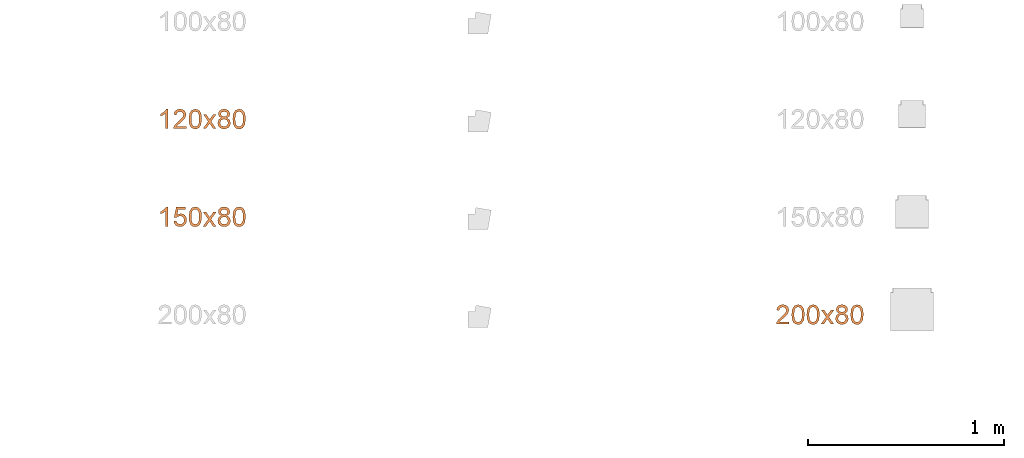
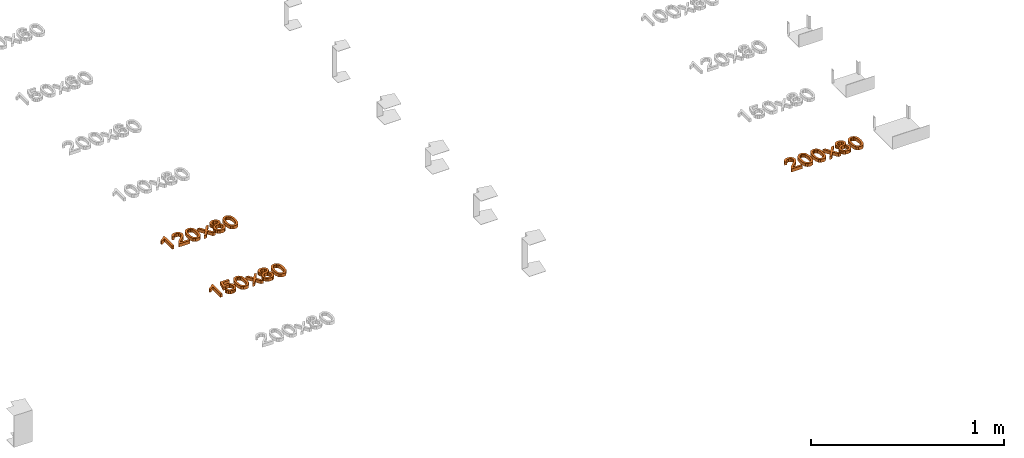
# One storey, part 51 of 71: 3 proxies.
"""IFC2X3 building model written with IfcOpenShell, lengths in millimetres."""

from ifc_helpers import new_model, entity, si_unit, converted_unit, derived_unit, direction, frame, origin, place, context, subcontext, project, spatial, polyline, outline, extrude, element, save


model = new_model("IFC2X3")

# Units and contexts
model_context = context("Model", 3, precision=0.01, world=origin(), true_north=direction((6.12303176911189e-17, 1.0)))
body_context = subcontext(model_context, "Body", "Model", "MODEL_VIEW")
ifc_project = project(units=[si_unit("LENGTHUNIT", "METRE", prefix="MILLI"), si_unit("AREAUNIT", "SQUARE_METRE"), si_unit("VOLUMEUNIT", "CUBIC_METRE"), converted_unit("PLANEANGLEUNIT", "DEGREE", entity("IfcRatioMeasure", 0.0174532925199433), si_unit("PLANEANGLEUNIT", "RADIAN"), dimensions=[0, 0, 0, 0, 0, 0, 0]), si_unit("MASSUNIT", "GRAM", prefix="KILO"), derived_unit("MASSDENSITYUNIT", [(si_unit("MASSUNIT", "GRAM", prefix="KILO"), 1), (si_unit("LENGTHUNIT", "METRE"), -3)]), si_unit("TIMEUNIT", "SECOND"), si_unit("FREQUENCYUNIT", "HERTZ"), si_unit("THERMODYNAMICTEMPERATUREUNIT", "DEGREE_CELSIUS"), derived_unit("THERMALTRANSMITTANCEUNIT", [(si_unit("MASSUNIT", "GRAM", prefix="KILO"), 1), (si_unit("THERMODYNAMICTEMPERATUREUNIT", "KELVIN"), -1), (si_unit("TIMEUNIT", "SECOND"), -3)]), derived_unit("VOLUMETRICFLOWRATEUNIT", [(si_unit("LENGTHUNIT", "METRE"), 3), (si_unit("TIMEUNIT", "SECOND"), -1)]), si_unit("ELECTRICCURRENTUNIT", "AMPERE"), si_unit("ELECTRICVOLTAGEUNIT", "VOLT"), si_unit("POWERUNIT", "WATT"), si_unit("FORCEUNIT", "NEWTON", prefix="KILO"), si_unit("ILLUMINANCEUNIT", "LUX"), si_unit("LUMINOUSFLUXUNIT", "LUMEN"), si_unit("LUMINOUSINTENSITYUNIT", "CANDELA"), derived_unit("USERDEFINED", [(si_unit("MASSUNIT", "GRAM", prefix="KILO"), -1), (si_unit("LENGTHUNIT", "METRE"), -2), (si_unit("TIMEUNIT", "SECOND"), 3), (si_unit("LUMINOUSFLUXUNIT", "LUMEN"), 1)]), derived_unit("LINEARVELOCITYUNIT", [(si_unit("LENGTHUNIT", "METRE"), 1), (si_unit("TIMEUNIT", "SECOND"), -1)]), si_unit("PRESSUREUNIT", "PASCAL"), derived_unit("USERDEFINED", [(si_unit("LENGTHUNIT", "METRE"), -2), (si_unit("MASSUNIT", "GRAM", prefix="KILO"), 1), (si_unit("TIMEUNIT", "SECOND"), -2)])], contexts=[model_context])

# Site, building, storey
site_placement = place(None, origin())
site = spatial("IfcSite", under=ifc_project, at=site_placement, Name="Default", CompositionType="ELEMENT")
building_placement = place(site_placement, origin())
building = spatial("IfcBuilding", under=site, at=building_placement, Name="Наименование здания", CompositionType="ELEMENT")
storey_placement = place(building_placement, origin())
storey = spatial("IfcBuildingStorey", under=building, at=storey_placement, Name="Этаж 01", CompositionType="ELEMENT", Elevation=0.0)

# Proxies
proxy_1_placement = place(storey_placement, origin())
element("IfcBuildingElementProxy", 1, at=proxy_1_placement, inside=storey, Name="Текст модели:100 мм Arial", ObjectType="Текст модели:100 мм Arial", context=body_context, shape_type="SweptSolid", body=[
    extrude(outline(polyline([(-63.8793021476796, -16.9184842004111), (36.5770080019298, -16.9184842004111), (36.5770080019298, -8.82508030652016), (23.2106288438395, 2.34626961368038), (11.4629304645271, 20.7526321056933), (-0.407395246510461, 20.7526321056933), (5.93243780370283, 7.53340574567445), (14.4059864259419, -4.3614454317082), (-63.8793021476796, -4.3614454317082), (-63.8793021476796, -16.9184842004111)])), frame((18050.6140165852, -3399.45595365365, 0.0), z_axis=(0.0, 0.0, 1.0), x_axis=(0.0, 1.0, 0.0)), (0.0, 0.0, 1.0), 20.0),
    extrude(outline(polyline([(-32.3858783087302, -45.1669477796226), (-32.3858783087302, -57.7239865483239), (33.5385752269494, -57.7239865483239), (32.1896745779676, -49.0664969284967), (24.5622545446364, -35.7369059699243), (8.84143061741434, -21.1810416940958), (-12.8390816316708, -0.260818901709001), (-18.2592096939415, 13.9639515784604), (-13.1456499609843, 25.4786580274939), (0.20846646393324, 30.1752848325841), (14.1266686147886, 25.5890226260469), (19.4119066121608, 12.9093565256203), (31.9689453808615, 14.4789863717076), (28.9247218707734, 26.6252235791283), (22.3426998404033, 35.4973110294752), (12.5662358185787, 40.9235704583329), (-0.0613136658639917, 42.7323236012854), (-12.7808336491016, 40.7212353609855), (-22.5389035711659, 34.6879706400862), (-28.7469122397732, 25.6748617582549), (-30.8162484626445, 14.7242410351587), (-28.5844310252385, 2.81712712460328), (-21.1654774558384, -9.49465698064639), (-3.17604789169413, -26.6992716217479), (11.2694517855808, -38.7780637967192), (16.9348345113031, -45.1669477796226), (-32.3858783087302, -45.1669477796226)])), frame((18129.3244132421, -3405.61126925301, 0.0), z_axis=(0.0, 0.0, -1.0), x_axis=(-1.0, 0.0, 0.0)), (0.0, 0.0, -1.0), 20.0),
    extrude(outline(polyline([(-7.02884310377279, -33.3490673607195), (17.5323805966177, -33.3490673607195), (35.1984171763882, -27.6137612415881), (43.3439841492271, -18.4876517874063), (47.0516941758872, -5.75150665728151), (46.7162020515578, 4.48638208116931), (43.4465778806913, 13.0955287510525), (27.9444305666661, 25.6659118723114), (-0.314338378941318, 32.2325535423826), (-24.0296505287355, 32.3678288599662), (-39.414302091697, 28.0260881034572), (-49.7293680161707, 18.9002174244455), (-54.4436715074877, 4.63998875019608), (-50.8676582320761, -14.1301059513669), (-35.4058547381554, -26.733339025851), (-7.02884310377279, -33.3490673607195)]), holes=[polyline([(-5.77428774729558, -20.8548320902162), (-25.0157644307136, -17.3562860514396), (-36.725708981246, -11.5717922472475), (-41.0962588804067, -4.77599682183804), (-41.9669219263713, 3.21464792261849), (-39.2244253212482, 11.2791292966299), (-32.8654063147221, 17.2229259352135), (-20.9698370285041, 20.2947501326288), (-1.61768958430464, 19.7433141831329), (17.8514140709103, 16.2707701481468), (28.7803640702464, 10.7141596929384), (33.5546988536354, 3.61815959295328), (34.5599568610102, -4.47255337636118), (31.9421230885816, -12.192319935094), (25.8471825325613, -18.1754808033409), (14.0250679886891, -21.4027476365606), (-5.77428774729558, -20.8548320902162)])]), frame((18208.158867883, -3417.512078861, 0.0), z_axis=(0.0, 0.0, 1.0), x_axis=(0.1018515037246, -0.994799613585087, 0.0)), (0.0, 0.0, 1.0), 20.0),
    extrude(outline(polyline([(-34.530221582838, -38.4265006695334), (-19.422534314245, -38.4265006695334), (-0.341721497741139, -12.0616243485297), (2.47870713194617, -16.1328517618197), (17.8561745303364, -38.4265006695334), (32.9638617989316, -38.4265006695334), (7.40832586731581, -1.34399555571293), (33.944880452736, 35.3461020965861), (18.8371931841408, 35.3461020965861), (4.95577923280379, 16.1671874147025), (0.0261604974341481, 9.34910777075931), (-5.66374769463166, 17.6877663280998), (-17.8529044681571, 35.3461020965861), (-32.9605917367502, 35.3461020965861), (-7.6993614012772, -1.34399555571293), (-34.530221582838, -38.4265006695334)])), frame((18281.0005248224, -3424.9087551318, 0.0)), (0.0, 0.0, 1.0), 20.0),
    extrude(outline(polyline([(10.1224324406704, -11.2212127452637), (26.4477736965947, -11.2212127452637), (39.686138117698, -0.0909413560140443), (44.6322314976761, 11.3078156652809), (44.5856416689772, 23.4168603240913), (39.6073830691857, 34.8346290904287), (29.7584701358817, 44.1595584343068), (17.4236057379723, 49.795656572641), (4.98749274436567, 50.1469317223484), (-6.20047708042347, 45.7236060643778), (-14.7909119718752, 37.0359017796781), (-20.0781666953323, 21.0056847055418), (-14.5070621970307, 5.37692494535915), (-28.0684052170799, 5.15563707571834), (-37.7221714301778, -2.60845010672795), (-41.5236361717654, -11.935700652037), (-41.0036870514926, -22.2232653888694), (-36.1916154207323, -32.1870777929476), (-27.1167126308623, -40.5430713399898), (-16.0503295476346, -45.812309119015), (-5.18246445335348, -46.5706787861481), (4.3845330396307, -43.2361071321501), (11.5483133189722, -36.2265209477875), (15.2516244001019, -24.0826582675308), (10.1224324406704, -11.2212127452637)]), holes=[polyline([(1.34077476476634, -28.903904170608), (-7.53771017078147, -33.9815875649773), (-20.2415350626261, -30.0339976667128), (-28.5905650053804, -19.6902819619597), (-26.9800933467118, -9.13787919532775), (-18.1108932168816, -3.87648928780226), (-5.45128168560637, -7.82385811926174), (3.1592702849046, -18.2403048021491), (1.34077476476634, -28.903904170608)]), polyline([(29.0262968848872, 6.56051660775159), (17.1806533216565, -1.51571690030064), (9.68494123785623, -1.27757268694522), (1.95268767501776, 2.32885586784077), (-4.46267094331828, 8.27886886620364), (-7.64161156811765, 15.3010558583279), (-4.59707955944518, 29.6929468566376), (7.31333657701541, 37.799466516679), (14.8367372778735, 37.487209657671), (22.6595729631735, 33.8012523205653), (30.3730358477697, 25.5864099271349), (32.5711030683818, 15.5727469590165), (29.0262968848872, 6.56051660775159)])]), frame((18354.7737407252, -3411.65422231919, 0.0), z_axis=(0.0, 0.0, 1.0), x_axis=(-0.829266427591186, -0.558853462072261, 0.0)), (0.0, 0.0, 1.0), 20.0),
    extrude(outline(polyline([(-7.02884310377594, -33.349067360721), (17.5323805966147, -33.349067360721), (35.1984171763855, -27.6137612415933), (43.3439841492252, -18.4876517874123), (47.0516941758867, -5.75150665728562), (46.7162020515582, 4.48638208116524), (43.4465778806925, 13.0955287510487), (27.9444305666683, 25.6659118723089), (-0.314338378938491, 32.2325535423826), (-24.0296505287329, 32.3678288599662), (-39.4143020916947, 28.0260881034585), (-49.7293680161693, 18.9002174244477), (-54.4436715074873, 4.63998875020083), (-50.8676582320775, -14.1301059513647), (-35.4058547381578, -26.7333390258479), (-7.02884310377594, -33.349067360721)]), holes=[polyline([(-5.77428774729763, -20.8548320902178), (-25.0157644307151, -17.3562860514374), (-36.725708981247, -11.5717922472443), (-41.0962588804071, -4.77599682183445), (-41.9669219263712, 3.21464792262), (-39.2244253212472, 11.2791292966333), (-32.8654063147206, 17.2229259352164), (-20.9698370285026, 20.2947501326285), (-1.61768958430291, 19.743314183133), (17.8514140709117, 16.2707701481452), (28.7803640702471, 10.7141596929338), (33.5546988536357, 3.61815959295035), (34.5599568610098, -4.4725533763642), (31.9421230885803, -12.192319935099), (25.8471825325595, -18.1754808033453), (14.025067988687, -21.402747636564), (-5.77428774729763, -20.8548320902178)])]), frame((18432.6159358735, -3417.512078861, 0.0), z_axis=(0.0, 0.0, 1.0), x_axis=(0.101851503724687, -0.994799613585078, 0.0)), (0.0, 0.0, 1.0), 20.0),
])
proxy_2_placement = place(storey_placement, origin())
element("IfcBuildingElementProxy", 2, at=proxy_2_placement, inside=storey, Name="Текст модели:100 мм Arial", ObjectType="Текст модели:100 мм Arial", context=body_context, shape_type="SweptSolid", body=[
    extrude(outline(polyline([(-63.8793021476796, -16.9184842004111), (36.5770080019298, -16.9184842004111), (36.5770080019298, -8.82508030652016), (23.2106288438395, 2.34626961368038), (11.4629304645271, 20.7526321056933), (-0.407395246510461, 20.7526321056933), (5.93243780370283, 7.53340574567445), (14.4059864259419, -4.3614454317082), (-63.8793021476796, -4.3614454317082), (-63.8793021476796, -16.9184842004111)])), frame((18050.6140165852, -3899.45595365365, 0.0), z_axis=(0.0, 0.0, 1.0), x_axis=(0.0, 1.0, 0.0)), (0.0, 0.0, 1.0), 20.0),
    extrude(outline(polyline([(3.81439562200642, -37.254895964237), (15.7323946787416, -37.254895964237), (26.1588137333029, -33.0579698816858), (34.2921694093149, -25.0537205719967), (39.3309783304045, -13.631750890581), (40.22192881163, 1.43409098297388), (34.3991305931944, 14.6815107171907), (25.5350217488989, 23.1481891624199), (13.9054384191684, 28.2770976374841), (0.912111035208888, 29.4702838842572), (-10.7159258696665, 25.7768606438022), (-19.742707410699, 18.0989984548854), (-24.9322687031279, 7.33886785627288), (-25.5937300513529, -2.21124798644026), (-22.6370240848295, -12.2793380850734), (-47.9924930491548, 0.0204883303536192), (-38.0977082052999, 37.2324069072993), (-50.2330599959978, 40.4592412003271), (-62.7370428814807, -6.56524698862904), (-15.5021967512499, -30.4943712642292), (-10.7584434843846, -18.7623737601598), (-14.4216298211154, -10.4922324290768), (-13.6981616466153, 0.72266773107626), (-9.98738154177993, 9.3572756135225), (-4.3255337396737, 14.6878856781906), (11.4370636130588, 15.9400687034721), (19.7481682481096, 12.2772427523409), (25.4355726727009, 6.40632241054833), (28.066514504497, -1.27212018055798), (27.2082313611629, -10.3575128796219), (19.6530635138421, -21.92563193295), (5.52431094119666, -24.7161898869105), (3.81439562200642, -37.254895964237)])), frame((18132.3790792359, -3923.39170175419, 0.0), z_axis=(0.0, 0.0, 1.0), x_axis=(0.256974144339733, -0.966418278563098, 0.0)), (0.0, 0.0, 1.0), 20.0),
    extrude(outline(polyline([(-7.02884310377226, -33.3490673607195), (17.5323805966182, -33.3490673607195), (35.1984171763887, -27.6137612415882), (43.3439841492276, -18.4876517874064), (47.0516941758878, -5.75150665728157), (46.7162020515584, 4.48638208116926), (43.4465778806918, 13.0955287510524), (27.9444305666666, 25.6659118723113), (-0.314338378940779, 32.2325535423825), (-24.0296505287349, 32.3678288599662), (-39.4143020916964, 28.0260881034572), (-49.7293680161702, 18.9002174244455), (-54.4436715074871, 4.63998875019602), (-50.8676582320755, -14.130105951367), (-35.4058547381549, -26.7333390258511), (-7.02884310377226, -33.3490673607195)]), holes=[polyline([(-5.77428774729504, -20.8548320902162), (-25.015764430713, -17.3562860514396), (-36.7257089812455, -11.5717922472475), (-41.0962588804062, -4.77599682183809), (-41.9669219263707, 3.21464792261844), (-39.2244253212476, 11.2791292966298), (-32.8654063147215, 17.2229259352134), (-20.9698370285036, 20.2947501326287), (-1.6176895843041, 19.7433141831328), (17.8514140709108, 16.2707701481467), (28.780364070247, 10.7141596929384), (33.5546988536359, 3.61815959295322), (34.5599568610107, -4.47255337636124), (31.9421230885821, -12.1923199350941), (25.8471825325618, -18.175480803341), (14.0250679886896, -21.4027476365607), (-5.77428774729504, -20.8548320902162)])]), frame((18208.158867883, -3917.512078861, 0.0), z_axis=(0.0, 0.0, 1.0), x_axis=(0.1018515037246, -0.994799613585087, 0.0)), (0.0, 0.0, 1.0), 20.0),
    extrude(outline(polyline([(-34.530221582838, -38.4265006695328), (-19.422534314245, -38.4265006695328), (-0.341721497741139, -12.0616243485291), (2.47870713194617, -16.1328517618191), (17.8561745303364, -38.4265006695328), (32.9638617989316, -38.4265006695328), (7.40832586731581, -1.34399555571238), (33.944880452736, 35.3461020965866), (18.8371931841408, 35.3461020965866), (4.95577923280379, 16.1671874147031), (0.0261604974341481, 9.34910777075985), (-5.66374769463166, 17.6877663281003), (-17.8529044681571, 35.3461020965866), (-32.9605917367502, 35.3461020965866), (-7.6993614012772, -1.34399555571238), (-34.530221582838, -38.4265006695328)])), frame((18281.0005248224, -3924.9087551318, 0.0)), (0.0, 0.0, 1.0), 20.0),
    extrude(outline(polyline([(10.1224324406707, -11.2212127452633), (26.447773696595, -11.2212127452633), (39.6861381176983, -0.0909413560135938), (44.6322314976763, 11.3078156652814), (44.5856416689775, 23.4168603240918), (39.607383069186, 34.8346290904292), (29.758470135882, 44.1595584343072), (17.4236057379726, 49.7956565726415), (4.98749274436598, 50.1469317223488), (-6.20047708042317, 45.7236060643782), (-14.7909119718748, 37.0359017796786), (-20.078166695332, 21.0056847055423), (-14.5070621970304, 5.3769249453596), (-28.0684052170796, 5.15563707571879), (-37.7221714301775, -2.6084501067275), (-41.5236361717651, -11.9357006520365), (-41.0036870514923, -22.2232653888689), (-36.191615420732, -32.1870777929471), (-27.116712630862, -40.5430713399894), (-16.0503295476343, -45.8123091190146), (-5.18246445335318, -46.5706787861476), (4.384533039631, -43.2361071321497), (11.5483133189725, -36.226520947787), (15.2516244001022, -24.0826582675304), (10.1224324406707, -11.2212127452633)]), holes=[polyline([(29.0262968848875, 6.56051660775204), (17.1806533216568, -1.51571690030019), (9.68494123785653, -1.27757268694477), (1.95268767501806, 2.32885586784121), (-4.46267094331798, 8.27886886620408), (-7.64161156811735, 15.3010558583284), (-4.59707955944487, 29.6929468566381), (7.31333657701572, 37.7994665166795), (14.8367372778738, 37.4872096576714), (22.6595729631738, 33.8012523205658), (30.37303584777, 25.5864099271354), (32.5711030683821, 15.5727469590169), (29.0262968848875, 6.56051660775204)]), polyline([(1.34077476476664, -28.9039041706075), (-7.53771017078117, -33.9815875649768), (-20.2415350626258, -30.0339976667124), (-28.5905650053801, -19.6902819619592), (-26.9800933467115, -9.1378791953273), (-18.1108932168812, -3.87648928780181), (-5.45128168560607, -7.82385811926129), (3.1592702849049, -18.2403048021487), (1.34077476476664, -28.9039041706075)])]), frame((18354.7737407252, -3911.65422231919, 0.0), z_axis=(0.0, 0.0, 1.0), x_axis=(-0.829266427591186, -0.558853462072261, 0.0)), (0.0, 0.0, 1.0), 20.0),
    extrude(outline(polyline([(-7.0288431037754, -33.349067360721), (17.5323805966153, -33.349067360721), (35.1984171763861, -27.6137612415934), (43.3439841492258, -18.4876517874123), (47.0516941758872, -5.75150665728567), (46.7162020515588, 4.48638208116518), (43.446577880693, 13.0955287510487), (27.9444305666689, 25.6659118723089), (-0.314338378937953, 32.2325535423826), (-24.0296505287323, 32.3678288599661), (-39.4143020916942, 28.0260881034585), (-49.7293680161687, 18.9002174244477), (-54.4436715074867, 4.63998875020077), (-50.867658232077, -14.1301059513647), (-35.4058547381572, -26.733339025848), (-7.0288431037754, -33.349067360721)]), holes=[polyline([(-5.77428774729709, -20.8548320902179), (-25.0157644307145, -17.3562860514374), (-36.7257089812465, -11.5717922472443), (-41.0962588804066, -4.77599682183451), (-41.9669219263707, 3.21464792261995), (-39.2244253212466, 11.2791292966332), (-32.86540631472, 17.2229259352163), (-20.969837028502, 20.2947501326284), (-1.61768958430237, 19.743314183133), (17.8514140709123, 16.2707701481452), (28.7803640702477, 10.7141596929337), (33.5546988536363, 3.61815959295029), (34.5599568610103, -4.47255337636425), (31.9421230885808, -12.192319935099), (25.84718253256, -18.1754808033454), (14.0250679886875, -21.402747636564), (-5.77428774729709, -20.8548320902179)])]), frame((18432.6159358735, -3917.512078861, 0.0), z_axis=(0.0, 0.0, 1.0), x_axis=(0.101851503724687, -0.994799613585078, 0.0)), (0.0, 0.0, 1.0), 20.0),
])
proxy_3_placement = place(storey_placement, origin())
element("IfcBuildingElementProxy", 3, at=proxy_3_placement, inside=storey, Name="Текст модели:100 мм Arial", ObjectType="Текст модели:100 мм Arial", context=body_context, shape_type="SweptSolid", body=[
    extrude(outline(polyline([(-32.3858783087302, -45.1669477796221), (-32.3858783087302, -57.7239865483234), (33.5385752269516, -57.7239865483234), (32.1896745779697, -49.0664969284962), (24.5622545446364, -35.7369059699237), (8.84143061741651, -21.1810416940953), (-12.8390816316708, -0.26081890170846), (-18.2592096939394, 13.9639515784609), (-13.1456499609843, 25.4786580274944), (0.208466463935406, 30.1752848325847), (14.1266686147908, 25.5890226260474), (19.4119066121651, 12.9093565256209), (31.9689453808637, 14.4789863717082), (28.9247218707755, 26.6252235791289), (22.3426998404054, 35.4973110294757), (12.5662358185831, 40.9235704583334), (-0.0613136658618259, 42.732323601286), (-12.7808336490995, 40.721235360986), (-22.5389035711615, 34.6879706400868), (-28.746912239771, 25.6748617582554), (-30.8162484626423, 14.7242410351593), (-28.5844310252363, 2.81712712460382), (-21.1654774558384, -9.49465698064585), (-3.17604789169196, -26.6992716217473), (11.2694517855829, -38.7780637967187), (16.9348345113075, -45.1669477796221), (-32.3858783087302, -45.1669477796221)])), frame((21212.4125507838, -4405.61126925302, 0.0), z_axis=(0.0, 0.0, -1.0), x_axis=(-1.0, 0.0, 0.0)), (0.0, 0.0, -1.0), 20.0),
    extrude(outline(polyline([(-7.02884310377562, -33.3490673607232), (17.5323805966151, -33.3490673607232), (35.1984171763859, -27.6137612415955), (43.3439841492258, -18.4876517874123), (47.051694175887, -5.75150665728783), (46.7162020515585, 4.48638208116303), (43.4465778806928, 13.0955287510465), (27.9444305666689, 25.6659118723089), (-0.314338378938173, 32.2325535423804), (-24.0296505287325, 32.367828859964), (-39.4143020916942, 28.0260881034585), (-49.729368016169, 18.9002174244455), (-54.4436715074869, 4.63998875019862), (-50.867658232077, -14.1301059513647), (-35.4058547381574, -26.7333390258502), (-7.02884310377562, -33.3490673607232)]), holes=[polyline([(-5.77428774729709, -20.8548320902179), (-25.0157644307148, -17.3562860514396), (-36.7257089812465, -11.5717922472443), (-41.0962588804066, -4.77599682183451), (-41.9669219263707, 3.21464792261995), (-39.2244253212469, 11.2791292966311), (-32.8654063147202, 17.2229259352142), (-20.969837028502, 20.2947501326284), (-1.61768958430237, 19.743314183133), (17.851414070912, 16.270770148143), (28.7803640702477, 10.7141596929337), (33.5546988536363, 3.61815959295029), (34.5599568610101, -4.47255337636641), (31.9421230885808, -12.192319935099), (25.8471825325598, -18.1754808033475), (14.0250679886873, -21.4027476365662), (-5.77428774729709, -20.8548320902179)])]), frame((21291.2470054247, -4417.512078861, 0.0), z_axis=(0.0, 0.0, 1.0), x_axis=(0.101851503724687, -0.994799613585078, 0.0)), (0.0, 0.0, 1.0), 20.0),
    extrude(outline(polyline([(-7.02884310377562, -33.3490673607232), (17.5323805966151, -33.3490673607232), (35.1984171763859, -27.6137612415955), (43.3439841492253, -18.4876517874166), (47.051694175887, -5.75150665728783), (46.7162020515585, 4.48638208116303), (43.4465778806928, 13.0955287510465), (27.9444305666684, 25.6659118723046), (-0.314338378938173, 32.2325535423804), (-24.0296505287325, 32.367828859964), (-39.4143020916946, 28.0260881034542), (-49.729368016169, 18.9002174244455), (-54.4436715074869, 4.63998875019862), (-50.8676582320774, -14.130105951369), (-35.4058547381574, -26.7333390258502), (-7.02884310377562, -33.3490673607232)]), holes=[polyline([(-5.77428774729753, -20.8548320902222), (-25.0157644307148, -17.3562860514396), (-36.7257089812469, -11.5717922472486), (-41.096258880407, -4.77599682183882), (-41.9669219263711, 3.21464792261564), (-39.2244253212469, 11.2791292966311), (-32.8654063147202, 17.2229259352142), (-20.9698370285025, 20.2947501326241), (-1.61768958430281, 19.7433141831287), (17.851414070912, 16.270770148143), (28.7803640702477, 10.7141596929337), (33.5546988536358, 3.61815959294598), (34.5599568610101, -4.47255337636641), (31.9421230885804, -12.1923199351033), (25.8471825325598, -18.1754808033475), (14.0250679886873, -21.4027476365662), (-5.77428774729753, -20.8548320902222)])]), frame((21368.158867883, -4417.512078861, 0.0), z_axis=(0.0, 0.0, 1.0), x_axis=(0.101851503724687, -0.994799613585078, 0.0)), (0.0, 0.0, 1.0), 20.0),
    extrude(outline(polyline([(-34.5302215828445, -38.4265006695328), (-19.4225343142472, -38.4265006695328), (-0.341721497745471, -12.0616243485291), (2.47870713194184, -16.1328517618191), (17.8561745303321, -38.4265006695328), (32.9638617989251, -38.4265006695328), (7.40832586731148, -1.34399555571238), (33.9448804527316, 35.3461020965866), (18.8371931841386, 35.3461020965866), (4.95577923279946, 16.1671874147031), (0.0261604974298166, 9.34910777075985), (-5.66374769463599, 17.6877663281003), (-17.8529044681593, 35.3461020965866), (-32.9605917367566, 35.3461020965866), (-7.69936140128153, -1.34399555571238), (-34.5302215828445, -38.4265006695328)])), frame((21441.0005248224, -4424.90875513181, 0.0)), (0.0, 0.0, 1.0), 20.0),
    extrude(outline(polyline([(10.1224324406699, -11.221212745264), (26.4477736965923, -11.221212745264), (39.6861381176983, -0.0909413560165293), (44.632231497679, 11.3078156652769), (44.585641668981, 23.4168603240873), (39.6073830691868, 34.8346290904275), (29.7584701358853, 44.159558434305), (17.4236057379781, 49.795656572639), (4.9874927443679, 50.1469317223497), (-6.20047708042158, 45.7236060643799), (-14.7909119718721, 37.0359017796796), (-20.0781666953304, 21.0056847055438), (-14.5070621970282, 5.37692494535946), (-28.0684052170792, 5.15563707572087), (-37.7221714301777, -2.60845010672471), (-41.523636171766, -11.9357006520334), (-41.003687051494, -22.2232653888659), (-36.1916154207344, -32.1870777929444), (-27.1167126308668, -40.5430713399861), (-16.0503295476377, -45.8123091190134), (-5.18246445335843, -46.570678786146), (4.38453303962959, -43.2361071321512), (11.5483133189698, -36.2265209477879), (15.2516244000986, -24.0826582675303), (10.1224324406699, -11.221212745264)]), holes=[polyline([(29.0262968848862, 6.5605166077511), (17.1806533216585, -1.51571690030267), (9.68494123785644, -1.27757268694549), (1.95268767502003, 2.32885586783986), (-4.46267094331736, 8.27886886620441), (-7.64161156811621, 15.301055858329), (-4.59707955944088, 29.6929468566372), (7.31333657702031, 37.7994665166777), (14.8367372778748, 37.4872096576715), (22.6595729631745, 33.8012523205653), (30.3730358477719, 25.5864099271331), (32.5711030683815, 15.5727469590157), (29.0262968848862, 6.5605166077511)]), polyline([(1.3407747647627, -28.9039041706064), (-7.53771017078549, -33.9815875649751), (-20.2415350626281, -30.0339976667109), (-28.5905650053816, -19.6902819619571), (-26.9800933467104, -9.13787919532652), (-18.1108932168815, -3.87648928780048), (-5.45128168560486, -7.8238581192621), (3.15927028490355, -18.2403048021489), (1.3407747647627, -28.9039041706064)])]), frame((21514.7737407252, -4411.65422231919, 0.0), z_axis=(0.0, 0.0, 1.0), x_axis=(-0.829266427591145, -0.558853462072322, 0.0)), (0.0, 0.0, 1.0), 20.0),
    extrude(outline(polyline([(-7.02884310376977, -33.3490673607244), (17.5323805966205, -33.3490673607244), (35.1984171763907, -27.6137612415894), (43.3439841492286, -18.4876517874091), (47.0516941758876, -5.75150665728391), (46.7162020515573, 4.48638208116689), (43.44657788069, 13.0955287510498), (27.9444305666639, 25.6659118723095), (-0.314338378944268, 32.232553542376), (-24.0296505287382, 32.3678288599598), (-39.4143020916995, 28.0260881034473), (-49.7293680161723, 18.9002174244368), (-54.4436715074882, 4.63998875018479), (-50.8676582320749, -14.1301059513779), (-35.4058547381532, -26.7333390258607), (-7.02884310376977, -33.3490673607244)]), holes=[polyline([(-5.77428774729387, -20.8548320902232), (-25.0157644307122, -17.3562860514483), (-36.7257089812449, -11.5717922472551), (-41.0962588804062, -4.77599682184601), (-41.9669219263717, 3.2146479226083), (-39.2244253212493, 11.2791292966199), (-32.8654063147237, 17.2229259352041), (-20.969837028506, 20.2947501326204), (-1.61768958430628, 19.7433141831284), (17.8514140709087, 16.2707701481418), (28.7803640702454, 10.7141596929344), (33.5546988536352, 3.61815959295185), (34.5599568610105, -4.47255337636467), (31.9421230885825, -12.1923199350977), (25.847182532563, -18.175480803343), (14.0250679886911, -21.4027476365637), (-5.77428774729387, -20.8548320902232)])]), frame((21592.6159358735, -4417.512078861, 0.0), z_axis=(0.0, 0.0, 1.0), x_axis=(0.101851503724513, -0.994799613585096, 0.0)), (0.0, 0.0, 1.0), 20.0),
])

save(model, "model.ifc")
